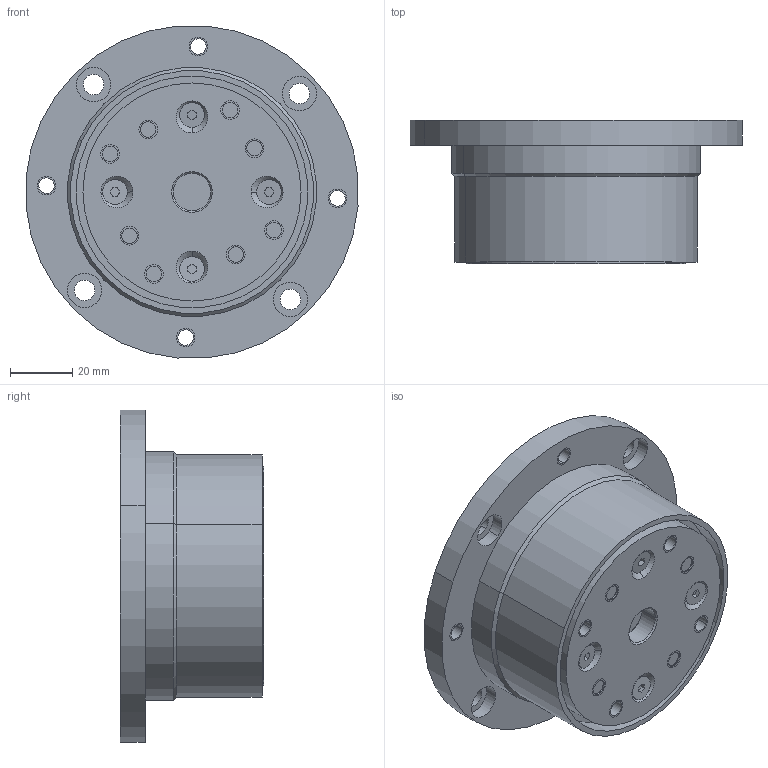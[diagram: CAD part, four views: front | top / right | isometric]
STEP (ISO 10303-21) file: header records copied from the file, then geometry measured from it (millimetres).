
FILE_DESCRIPTION((''),'2;1');
FILE_NAME('B6-080-070','2018-02-27T',('CSW'),(''),'CREO PARAMETRIC BY PTC INC, 2016260','CREO PARAMETRIC BY PTC INC, 2016260','');
FILE_SCHEMA(('AUTOMOTIVE_DESIGN { 1 0 10303 214 1 1 1 1 }'));
Length unit declared in the file: millimetre
Products named in the file (1): B6-080-070
Bounding box: 106.59 x 46 x 106.59 mm (x, y, z)
Volume: 246561.5 mm3; surface area: 40322.7 mm2
Topology: 1 solids, 53 shells, 533 faces, 1184 edges, 738 vertices
Faces by surface type: cylinder 230, plane 207, cone 80, torus 16
Entity records: 15079 total; most frequent: CARTESIAN_POINT 2785, DIRECTION 2766, ORIENTED_EDGE 2208, EDGE_CURVE 1168, AXIS2_PLACEMENT_3D 1096, VERTEX_POINT 738, EDGE_LOOP 634, VECTOR 574
